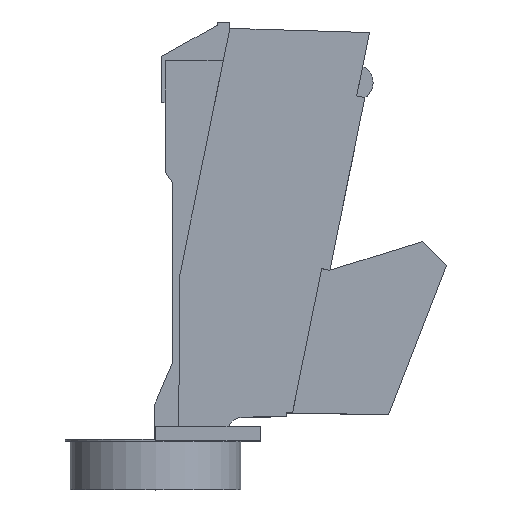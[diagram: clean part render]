
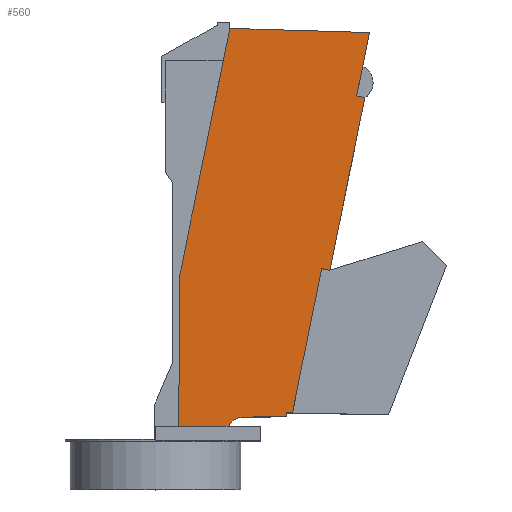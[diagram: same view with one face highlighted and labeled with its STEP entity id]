
A CAD part, top view. The second image highlights one B-rep face of the part: STEP entity #560.
In plain terms, the highlighted planar face has unit normal (0, 0, 1).
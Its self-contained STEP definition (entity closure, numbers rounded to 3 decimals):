
#19 = EDGE_LOOP ( 'NONE', ( #833, #837, #838, #839, #887, #891, #883, #847, #848, #849, #840, #841, #842 ) ) ;
#80 = FACE_OUTER_BOUND ( 'NONE', #19, .T. ) ;
#313 = VECTOR ( 'NONE', #1392, 1000. ) ;
#320 = LINE ( 'NONE', #1391, #313 ) ;
#329 = VECTOR ( 'NONE', #1411, 1000. ) ;
#331 = LINE ( 'NONE', #1410, #329 ) ;
#335 = LINE ( 'NONE', #1414, #351 ) ;
#340 = LINE ( 'NONE', #1406, #341 ) ;
#341 = VECTOR ( 'NONE', #1407, 1000. ) ;
#343 = LINE ( 'NONE', #1397, #347 ) ;
#344 = CIRCLE ( 'NONE', #822, 3. ) ;
#347 = VECTOR ( 'NONE', #1415, 1000. ) ;
#351 = VECTOR ( 'NONE', #1419, 1000. ) ;
#366 = LINE ( 'NONE', #1432, #370 ) ;
#370 = VECTOR ( 'NONE', #1444, 1000. ) ;
#387 = LINE ( 'NONE', #1464, #388 ) ;
#388 = VECTOR ( 'NONE', #1465, 1000. ) ;
#389 = LINE ( 'NONE', #1466, #390 ) ;
#390 = VECTOR ( 'NONE', #1467, 1000. ) ;
#393 = LINE ( 'NONE', #1470, #394 ) ;
#394 = VECTOR ( 'NONE', #1471, 1000. ) ;
#395 = LINE ( 'NONE', #1472, #396 ) ;
#396 = VECTOR ( 'NONE', #1473, 1000. ) ;
#405 = LINE ( 'NONE', #1482, #406 ) ;
#406 = VECTOR ( 'NONE', #1483, 1000. ) ;
#409 = LINE ( 'NONE', #1487, #410 ) ;
#410 = VECTOR ( 'NONE', #1488, 1000. ) ;
#560 = ADVANCED_FACE ( 'NONE', ( #80 ), #1871, .T. ) ;
#705 = EDGE_CURVE ( 'NONE', #1667, #1663, #320, .T. ) ;
#712 = EDGE_CURVE ( 'NONE', #1709, #1704, #340, .T. ) ;
#713 = EDGE_CURVE ( 'NONE', #1615, #1619, #344, .T. ) ;
#714 = EDGE_CURVE ( 'NONE', #1663, #1661, #331, .T. ) ;
#716 = EDGE_CURVE ( 'NONE', #1619, #1637, #343, .T. ) ;
#718 = EDGE_CURVE ( 'NONE', #1704, #1660, #335, .T. ) ;
#729 = EDGE_CURVE ( 'NONE', #1635, #1688, #366, .T. ) ;
#739 = EDGE_CURVE ( 'NONE', #1615, #1632, #387, .T. ) ;
#740 = EDGE_CURVE ( 'NONE', #1637, #1667, #389, .T. ) ;
#742 = EDGE_CURVE ( 'NONE', #1660, #1668, #393, .T. ) ;
#743 = EDGE_CURVE ( 'NONE', #1661, #1688, #395, .T. ) ;
#748 = EDGE_CURVE ( 'NONE', #1709, #1635, #405, .T. ) ;
#750 = EDGE_CURVE ( 'NONE', #1668, #1632, #409, .T. ) ;
#792 = AXIS2_PLACEMENT_3D ( 'NONE', #1874, #1880, #1881 ) ;
#822 = AXIS2_PLACEMENT_3D ( 'NONE', #1400, #1408, #1409 ) ;
#833 = ORIENTED_EDGE ( 'NONE', *, *, #739, .F. ) ;
#837 = ORIENTED_EDGE ( 'NONE', *, *, #713, .T. ) ;
#838 = ORIENTED_EDGE ( 'NONE', *, *, #716, .T. ) ;
#839 = ORIENTED_EDGE ( 'NONE', *, *, #740, .T. ) ;
#840 = ORIENTED_EDGE ( 'NONE', *, *, #718, .T. ) ;
#841 = ORIENTED_EDGE ( 'NONE', *, *, #742, .T. ) ;
#842 = ORIENTED_EDGE ( 'NONE', *, *, #750, .T. ) ;
#847 = ORIENTED_EDGE ( 'NONE', *, *, #729, .F. ) ;
#848 = ORIENTED_EDGE ( 'NONE', *, *, #748, .F. ) ;
#849 = ORIENTED_EDGE ( 'NONE', *, *, #712, .T. ) ;
#883 = ORIENTED_EDGE ( 'NONE', *, *, #743, .T. ) ;
#887 = ORIENTED_EDGE ( 'NONE', *, *, #705, .T. ) ;
#891 = ORIENTED_EDGE ( 'NONE', *, *, #714, .T. ) ;
#1391 = CARTESIAN_POINT ( 'NONE',  ( 29.38, 5.785, 12.1 ) ) ;
#1392 = DIRECTION ( 'NONE',  ( 1., -0.017, 0. ) ) ;
#1397 = CARTESIAN_POINT ( 'NONE',  ( 20.335, 4.92, 12.1 ) ) ;
#1400 = CARTESIAN_POINT ( 'NONE',  ( 20.368, 1.92, 12.1 ) ) ;
#1406 = CARTESIAN_POINT ( 'NONE',  ( 45.06, 76.962, 12.1 ) ) ;
#1407 = DIRECTION ( 'NONE',  ( 0.199, 0.98, 0. ) ) ;
#1408 = DIRECTION ( 'NONE',  ( 0., 0., -1. ) ) ;
#1409 = DIRECTION ( 'NONE',  ( 1., 0., 0. ) ) ;
#1410 = CARTESIAN_POINT ( 'NONE',  ( 45.06, 76.962, 12.1 ) ) ;
#1411 = DIRECTION ( 'NONE',  ( 0.199, 0.98, 0. ) ) ;
#1414 = CARTESIAN_POINT ( 'NONE',  ( 17.765, 84.772, 12.1 ) ) ;
#1415 = DIRECTION ( 'NONE',  ( 1., 0.011, 0. ) ) ;
#1419 = DIRECTION ( 'NONE',  ( -1., 0.03, 0. ) ) ;
#1432 = CARTESIAN_POINT ( 'NONE',  ( 38.299, 35.092, 12.1 ) ) ;
#1444 = DIRECTION ( 'NONE',  ( -0.199, -0.98, 0. ) ) ;
#1464 = CARTESIAN_POINT ( 'NONE',  ( 20.368, 3., 12.1 ) ) ;
#1465 = DIRECTION ( 'NONE',  ( -1., 0., 0. ) ) ;
#1466 = CARTESIAN_POINT ( 'NONE',  ( 29.38, 5.02, 12.1 ) ) ;
#1467 = DIRECTION ( 'NONE',  ( 0., 1., 0. ) ) ;
#1470 = CARTESIAN_POINT ( 'NONE',  ( 17.765, 84.772, 12.1 ) ) ;
#1471 = DIRECTION ( 'NONE',  ( -0.199, -0.98, 0. ) ) ;
#1472 = CARTESIAN_POINT ( 'NONE',  ( 0.838, 42.693, 12.1 ) ) ;
#1473 = DIRECTION ( 'NONE',  ( 0.98, -0.199, 0. ) ) ;
#1482 = CARTESIAN_POINT ( 'NONE',  ( 8.032, 78.152, 12.1 ) ) ;
#1483 = DIRECTION ( 'NONE',  ( 0.98, -0.199, 0. ) ) ;
#1487 = CARTESIAN_POINT ( 'NONE',  ( 7.215, 0., 12.1 ) ) ;
#1488 = DIRECTION ( 'NONE',  ( -0.009, -1., 0. ) ) ;
#1492 = CARTESIAN_POINT ( 'NONE',  ( 17.569, 3., 12.1 ) ) ;
#1494 = CARTESIAN_POINT ( 'NONE',  ( 20.335, 4.92, 12.1 ) ) ;
#1506 = CARTESIAN_POINT ( 'NONE',  ( 7.242, 3., 12.1 ) ) ;
#1509 = CARTESIAN_POINT ( 'NONE',  ( 45.494, 70.551, 12.1 ) ) ;
#1511 = CARTESIAN_POINT ( 'NONE',  ( 29.38, 5.02, 12.1 ) ) ;
#1534 = CARTESIAN_POINT ( 'NONE',  ( 17.765, 84.772, 12.1 ) ) ;
#1535 = CARTESIAN_POINT ( 'NONE',  ( 36.633, 35.43, 12.1 ) ) ;
#1537 = CARTESIAN_POINT ( 'NONE',  ( 30.613, 5.763, 12.1 ) ) ;
#1541 = CARTESIAN_POINT ( 'NONE',  ( 29.38, 5.785, 12.1 ) ) ;
#1542 = CARTESIAN_POINT ( 'NONE',  ( 7.52, 34.28, 12.1 ) ) ;
#1558 = CARTESIAN_POINT ( 'NONE',  ( 38.299, 35.092, 12.1 ) ) ;
#1574 = CARTESIAN_POINT ( 'NONE',  ( 46.47, 83.91, 12.1 ) ) ;
#1579 = CARTESIAN_POINT ( 'NONE',  ( 43.828, 70.889, 12.1 ) ) ;
#1615 = VERTEX_POINT ( 'NONE', #1492 ) ;
#1619 = VERTEX_POINT ( 'NONE', #1494 ) ;
#1632 = VERTEX_POINT ( 'NONE', #1506 ) ;
#1635 = VERTEX_POINT ( 'NONE', #1509 ) ;
#1637 = VERTEX_POINT ( 'NONE', #1511 ) ;
#1660 = VERTEX_POINT ( 'NONE', #1534 ) ;
#1661 = VERTEX_POINT ( 'NONE', #1535 ) ;
#1663 = VERTEX_POINT ( 'NONE', #1537 ) ;
#1667 = VERTEX_POINT ( 'NONE', #1541 ) ;
#1668 = VERTEX_POINT ( 'NONE', #1542 ) ;
#1688 = VERTEX_POINT ( 'NONE', #1558 ) ;
#1704 = VERTEX_POINT ( 'NONE', #1574 ) ;
#1709 = VERTEX_POINT ( 'NONE', #1579 ) ;
#1871 = PLANE ( 'NONE',  #792 ) ;
#1874 = CARTESIAN_POINT ( 'NONE',  ( 20.368, 1.92, 12.1 ) ) ;
#1880 = DIRECTION ( 'NONE',  ( 0., 0., 1. ) ) ;
#1881 = DIRECTION ( 'NONE',  ( 1., 0., 0. ) ) ;
